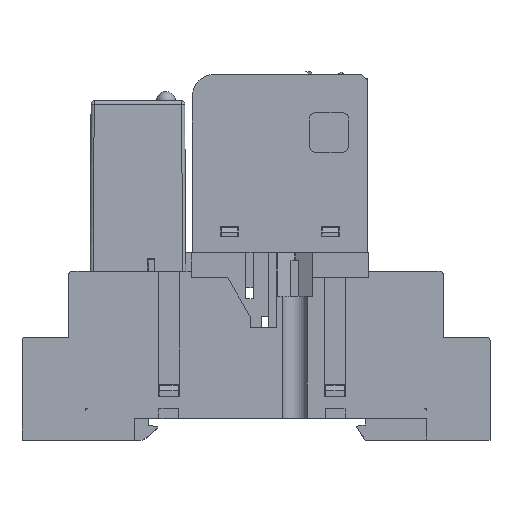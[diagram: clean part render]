
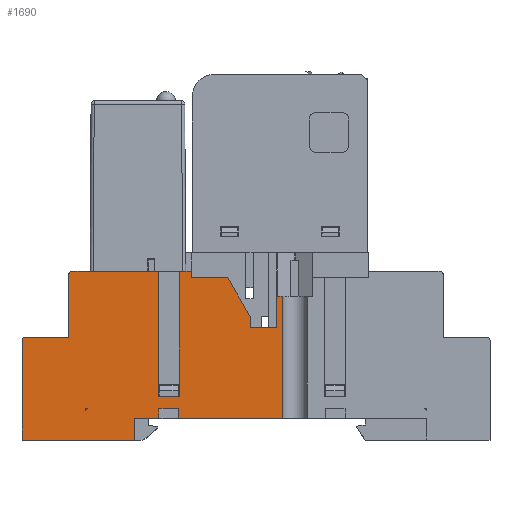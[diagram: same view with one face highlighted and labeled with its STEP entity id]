
A CAD part, top view. The second image highlights one B-rep face of the part: STEP entity #1690.
In plain terms, the highlighted planar face has unit normal (0, 0, 1).
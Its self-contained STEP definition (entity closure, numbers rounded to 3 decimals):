
#1690=ADVANCED_FACE('',(#31314,#31316),#31318,.T.);
#31314=FACE_BOUND('',#31315,.T.);
#31315=EDGE_LOOP('',(#59144,#59145,#59146,#59147,#59148,#59149,#59150,#59151,#59152,
#59153,#59154,#59155,#59156,#59157,#59158,#59159,#59160,#59161,#59162,#59163,#59164,
#59165,#59166,#59167,#59168));
#31316=FACE_BOUND('',#31317,.T.);
#31317=EDGE_LOOP('',(#59169,#59170,#59171));
#31318=PLANE('',#31319);
#31319=AXIS2_PLACEMENT_3D('',#31320,#31321,#31322);
#31320=CARTESIAN_POINT('',(-43.65,0.,15.));
#31321=DIRECTION('',(0.,0.,1.));
#31322=DIRECTION('',(1.,0.,0.));
#59144=ORIENTED_EDGE('',*,*,#76980,.T.);
#59145=ORIENTED_EDGE('',*,*,#76981,.T.);
#59146=ORIENTED_EDGE('',*,*,#76982,.T.);
#59147=ORIENTED_EDGE('',*,*,#76573,.F.);
#59148=ORIENTED_EDGE('',*,*,#76979,.F.);
#59149=ORIENTED_EDGE('',*,*,#76983,.T.);
#59150=ORIENTED_EDGE('',*,*,#76984,.T.);
#59151=ORIENTED_EDGE('',*,*,#76985,.F.);
#59152=ORIENTED_EDGE('',*,*,#76986,.F.);
#59153=ORIENTED_EDGE('',*,*,#76987,.T.);
#59154=ORIENTED_EDGE('',*,*,#76988,.T.);
#59155=ORIENTED_EDGE('',*,*,#76989,.F.);
#59156=ORIENTED_EDGE('',*,*,#76990,.T.);
#59157=ORIENTED_EDGE('',*,*,#76991,.T.);
#59158=ORIENTED_EDGE('',*,*,#76992,.T.);
#59159=ORIENTED_EDGE('',*,*,#76993,.F.);
#59160=ORIENTED_EDGE('',*,*,#76994,.T.);
#59161=ORIENTED_EDGE('',*,*,#76995,.F.);
#59162=ORIENTED_EDGE('',*,*,#76996,.T.);
#59163=ORIENTED_EDGE('',*,*,#76997,.T.);
#59164=ORIENTED_EDGE('',*,*,#76998,.T.);
#59165=ORIENTED_EDGE('',*,*,#76999,.T.);
#59166=ORIENTED_EDGE('',*,*,#77000,.T.);
#59167=ORIENTED_EDGE('',*,*,#77001,.T.);
#59168=ORIENTED_EDGE('',*,*,#76577,.F.);
#59169=ORIENTED_EDGE('',*,*,#77002,.T.);
#59170=ORIENTED_EDGE('',*,*,#77003,.T.);
#59171=ORIENTED_EDGE('',*,*,#77004,.F.);
#76573=EDGE_CURVE('',#85941,#85943,#85944,.T.);
#76577=EDGE_CURVE('',#85949,#85951,#85952,.T.);
#76979=EDGE_CURVE('',#86642,#85941,#86644,.F.);
#76980=EDGE_CURVE('',#85949,#86645,#86646,.F.);
#76981=EDGE_CURVE('',#86645,#86647,#86648,.F.);
#76982=EDGE_CURVE('',#86647,#85943,#86649,.F.);
#76983=EDGE_CURVE('',#86642,#86650,#86651,.F.);
#76984=EDGE_CURVE('',#86650,#86652,#86653,.T.);
#76985=EDGE_CURVE('',#86654,#86652,#86655,.F.);
#76986=EDGE_CURVE('',#86656,#86654,#86657,.T.);
#76987=EDGE_CURVE('',#86656,#86658,#86659,.T.);
#76988=EDGE_CURVE('',#86658,#86660,#86661,.T.);
#76989=EDGE_CURVE('',#86662,#86660,#86663,.T.);
#76990=EDGE_CURVE('',#86662,#86664,#86665,.F.);
#76991=EDGE_CURVE('',#86664,#86666,#86667,.F.);
#76992=EDGE_CURVE('',#86666,#86668,#86669,.F.);
#76993=EDGE_CURVE('',#86670,#86668,#86671,.T.);
#76994=EDGE_CURVE('',#86670,#86672,#86673,.T.);
#76995=EDGE_CURVE('',#86674,#86672,#86675,.T.);
#76996=EDGE_CURVE('',#86674,#86676,#86677,.F.);
#76997=EDGE_CURVE('',#86676,#86678,#86679,.F.);
#76998=EDGE_CURVE('',#86678,#86680,#86681,.F.);
#76999=EDGE_CURVE('',#86680,#86682,#86683,.F.);
#77000=EDGE_CURVE('',#86682,#86684,#86685,.F.);
#77001=EDGE_CURVE('',#86684,#85951,#86686,.F.);
#77002=EDGE_CURVE('',#86687,#86688,#86689,.F.);
#77003=EDGE_CURVE('',#86688,#86690,#86691,.F.);
#77004=EDGE_CURVE('',#86687,#86690,#86692,.F.);
#85941=VERTEX_POINT('',#101658);
#85943=VERTEX_POINT('',#101662);
#85944=LINE('',#101663,#101664);
#85949=VERTEX_POINT('',#101674);
#85951=VERTEX_POINT('',#101678);
#85952=LINE('',#101679,#101680);
#86642=VERTEX_POINT('',#103217);
#86644=CIRCLE('',#103221,0.5);
#86645=VERTEX_POINT('',#103225);
#86646=LINE('',#103226,#103227);
#86647=VERTEX_POINT('',#103229);
#86648=LINE('',#103230,#103231);
#86649=LINE('',#103233,#103234);
#86650=VERTEX_POINT('',#103236);
#86651=LINE('',#103237,#103238);
#86652=VERTEX_POINT('',#103240);
#86653=LINE('',#103241,#103242);
#86654=VERTEX_POINT('',#103244);
#86655=CIRCLE('',#103245,0.5);
#86656=VERTEX_POINT('',#103249);
#86657=LINE('',#103250,#103251);
#86658=VERTEX_POINT('',#103253);
#86659=LINE('',#103254,#103255);
#86660=VERTEX_POINT('',#103257);
#86661=LINE('',#103258,#103259);
#86662=VERTEX_POINT('',#103261);
#86663=LINE('',#103262,#103263);
#86664=VERTEX_POINT('',#103265);
#86665=LINE('',#103266,#103267);
#86666=VERTEX_POINT('',#103269);
#86667=LINE('',#103270,#103271);
#86668=VERTEX_POINT('',#103273);
#86669=LINE('',#103274,#103275);
#86670=VERTEX_POINT('',#103277);
#86671=LINE('',#103278,#103279);
#86672=VERTEX_POINT('',#103281);
#86673=LINE('',#103282,#103283);
#86674=VERTEX_POINT('',#103285);
#86675=LINE('',#103286,#103287);
#86676=VERTEX_POINT('',#103289);
#86677=LINE('',#103290,#103291);
#86678=VERTEX_POINT('',#103293);
#86679=LINE('',#103294,#103295);
#86680=VERTEX_POINT('',#103297);
#86681=LINE('',#103298,#103299);
#86682=VERTEX_POINT('',#103301);
#86683=LINE('',#103302,#103303);
#86684=VERTEX_POINT('',#103305);
#86685=LINE('',#103306,#103307);
#86686=LINE('',#103309,#103310);
#86687=VERTEX_POINT('',#103312);
#86688=VERTEX_POINT('',#103313);
#86689=LINE('',#103314,#103315);
#86690=VERTEX_POINT('',#103317);
#86691=LINE('',#103318,#103319);
#86692=CIRCLE('',#103321,0.3);
#101658=CARTESIAN_POINT('',(-35.65,27.,15.));
#101662=CARTESIAN_POINT('',(-21.85,27.,15.));
#101663=CARTESIAN_POINT('',(-35.65,27.,15.));
#101664=VECTOR('',#101665,1.);
#101665=DIRECTION('',(1.,0.,0.));
#101674=CARTESIAN_POINT('',(-18.45,27.,15.));
#101678=CARTESIAN_POINT('',(-16.55,27.,15.));
#101679=CARTESIAN_POINT('',(-18.45,27.,15.));
#101680=VECTOR('',#101681,1.);
#101681=DIRECTION('',(1.,0.,0.));
#103217=CARTESIAN_POINT('',(-36.15,26.5,15.));
#103221=AXIS2_PLACEMENT_3D('',#103222,#103223,#103224);
#103222=CARTESIAN_POINT('',(-35.65,26.5,15.));
#103223=DIRECTION('',(0.,-0.,1.));
#103224=DIRECTION('',(0.,1.,0.));
#103225=CARTESIAN_POINT('',(-18.45,7.,15.));
#103226=CARTESIAN_POINT('',(-18.45,7.,15.));
#103227=VECTOR('',#103228,1.);
#103228=DIRECTION('',(0.,1.,0.));
#103229=CARTESIAN_POINT('',(-21.85,7.,15.));
#103230=CARTESIAN_POINT('',(-21.85,7.,15.));
#103231=VECTOR('',#103232,1.);
#103232=DIRECTION('',(1.,0.,0.));
#103233=CARTESIAN_POINT('',(-21.85,27.,15.));
#103234=VECTOR('',#103235,1.);
#103235=DIRECTION('',(0.,-1.,0.));
#103236=CARTESIAN_POINT('',(-36.15,16.5,15.));
#103237=CARTESIAN_POINT('',(-36.15,16.5,15.));
#103238=VECTOR('',#103239,1.);
#103239=DIRECTION('',(0.,1.,0.));
#103240=CARTESIAN_POINT('',(-43.15,16.5,15.));
#103241=CARTESIAN_POINT('',(-36.15,16.5,15.));
#103242=VECTOR('',#103243,1.);
#103243=DIRECTION('',(-1.,0.,0.));
#103244=CARTESIAN_POINT('',(-43.65,16.,15.));
#103245=AXIS2_PLACEMENT_3D('',#103246,#103247,#103248);
#103246=CARTESIAN_POINT('',(-43.15,16.,15.));
#103247=DIRECTION('',(0.,-0.,1.));
#103248=DIRECTION('',(0.,1.,0.));
#103249=CARTESIAN_POINT('',(-43.65,0.,15.));
#103250=CARTESIAN_POINT('',(-43.65,0.,15.));
#103251=VECTOR('',#103252,1.);
#103252=DIRECTION('',(0.,1.,0.));
#103253=CARTESIAN_POINT('',(-25.65,0.,15.));
#103254=CARTESIAN_POINT('',(-43.65,0.,15.));
#103255=VECTOR('',#103256,1.);
#103256=DIRECTION('',(1.,0.,0.));
#103257=CARTESIAN_POINT('',(-25.65,3.5,15.));
#103258=CARTESIAN_POINT('',(-25.65,0.,15.));
#103259=VECTOR('',#103260,1.);
#103260=DIRECTION('',(0.,1.,0.));
#103261=CARTESIAN_POINT('',(-21.75,3.5,15.));
#103262=CARTESIAN_POINT('',(-21.75,3.5,15.));
#103263=VECTOR('',#103264,1.);
#103264=DIRECTION('',(-1.,0.,0.));
#103265=CARTESIAN_POINT('',(-21.75,5.,15.));
#103266=CARTESIAN_POINT('',(-21.75,5.,15.));
#103267=VECTOR('',#103268,1.);
#103268=DIRECTION('',(0.,-1.,0.));
#103269=CARTESIAN_POINT('',(-18.55,5.,15.));
#103270=CARTESIAN_POINT('',(-18.55,5.,15.));
#103271=VECTOR('',#103272,1.);
#103272=DIRECTION('',(-1.,0.,0.));
#103273=CARTESIAN_POINT('',(-18.55,3.5,15.));
#103274=CARTESIAN_POINT('',(-18.55,3.5,15.));
#103275=VECTOR('',#103276,1.);
#103276=DIRECTION('',(0.,1.,0.));
#103277=CARTESIAN_POINT('',(-2.,3.5,15.));
#103278=CARTESIAN_POINT('',(-2.,3.5,15.));
#103279=VECTOR('',#103280,1.);
#103280=DIRECTION('',(-1.,0.,0.));
#103281=CARTESIAN_POINT('',(-2.,23.,15.));
#103282=CARTESIAN_POINT('',(-2.,3.5,15.));
#103283=VECTOR('',#103284,1.);
#103284=DIRECTION('',(0.,1.,0.));
#103285=CARTESIAN_POINT('',(-2.9,23.,15.));
#103286=CARTESIAN_POINT('',(-2.9,23.,15.));
#103287=VECTOR('',#103288,1.);
#103288=DIRECTION('',(1.,0.,0.));
#103289=CARTESIAN_POINT('',(-2.9,18.,15.));
#103290=CARTESIAN_POINT('',(-2.9,18.,15.));
#103291=VECTOR('',#103292,1.);
#103292=DIRECTION('',(0.,1.,0.));
#103293=CARTESIAN_POINT('',(-7.15,18.,15.));
#103294=CARTESIAN_POINT('',(-7.15,18.,15.));
#103295=VECTOR('',#103296,1.);
#103296=DIRECTION('',(1.,0.,0.));
#103297=CARTESIAN_POINT('',(-7.15,19.8,15.));
#103298=CARTESIAN_POINT('',(-7.15,19.8,15.));
#103299=VECTOR('',#103300,1.);
#103300=DIRECTION('',(0.,-1.,0.));
#103301=CARTESIAN_POINT('',(-10.73,26.,15.));
#103302=CARTESIAN_POINT('',(-10.73,26.,15.));
#103303=VECTOR('',#103304,1.);
#103304=DIRECTION('',(0.5,-0.866,0.));
#103305=CARTESIAN_POINT('',(-16.55,26.,15.));
#103306=CARTESIAN_POINT('',(-16.55,26.,15.));
#103307=VECTOR('',#103308,1.);
#103308=DIRECTION('',(1.,0.,0.));
#103309=CARTESIAN_POINT('',(-16.55,27.,15.));
#103310=VECTOR('',#103311,1.);
#103311=DIRECTION('',(0.,-1.,0.));
#103312=CARTESIAN_POINT('',(-33.45,4.7,15.));
#103313=CARTESIAN_POINT('',(-33.45,5.,15.));
#103314=CARTESIAN_POINT('',(-33.45,5.,15.));
#103315=VECTOR('',#103316,1.);
#103316=DIRECTION('',(0.,-1.,0.));
#103317=CARTESIAN_POINT('',(-33.15,5.,15.));
#103318=CARTESIAN_POINT('',(-33.15,5.,15.));
#103319=VECTOR('',#103320,1.);
#103320=DIRECTION('',(-1.,0.,0.));
#103321=AXIS2_PLACEMENT_3D('',#103322,#103323,#103324);
#103322=CARTESIAN_POINT('',(-33.15,4.7,15.));
#103323=DIRECTION('',(0.,-0.,1.));
#103324=DIRECTION('',(0.,1.,0.));
